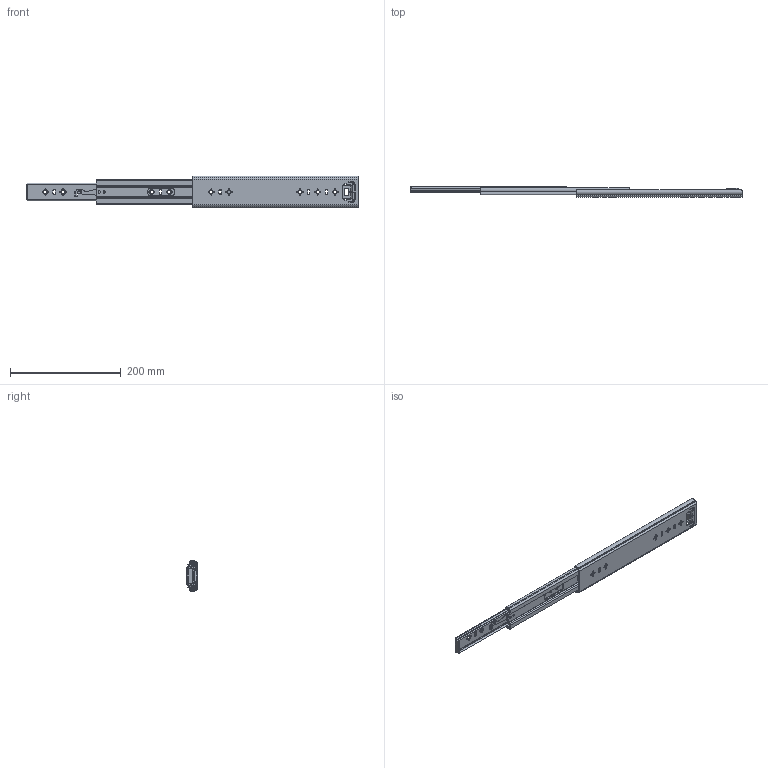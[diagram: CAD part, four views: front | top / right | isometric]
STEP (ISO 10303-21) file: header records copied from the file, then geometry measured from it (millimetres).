
FILE_DESCRIPTION((''),'2;1');
FILE_NAME('1057-02-12_ASM','2023-12-19T',('jishu015'),(''),'PRO/ENGINEER BY PARAMETRIC TECHNOLOGY CORPORATION, 2010280','PRO/ENGINEER BY PARAMETRIC TECHNOLOGY CORPORATION, 2010280','');
FILE_SCHEMA(('CONFIG_CONTROL_DESIGN'));
Length unit declared in the file: millimetre
Products named in the file (14): KP-57-01WEIKE-18______; 1057WEIJIAO______; 1057DAZHUJIA-14GE______; 1057-5-6GANZHU______; 1057DAZHUJIA-14GE_______ASM; KP-57-01ZHONGGUI-18______; 57-ZHONGGUIDINWEIJIAN______; KP-57-01ZHONGGUI-18_______ASM; 1057XIAOZHUJIA______; 1057XIAOZHUJIA-14GE_______ASM; KP-57-01NEIGUI-18______; 45TIEBACHA______; KP-57-01NEIGUI-18_______ASM; 1057-02-12_ASM
Assembly tree (48 placements, depth 3):
  1057-02-12_ASM
    KP-57-01WEIKE-18______
    1057WEIJIAO______
    1057DAZHUJIA-14GE_______ASM
      1057DAZHUJIA-14GE______
      1057-5-6GANZHU______  x12
    KP-57-01ZHONGGUI-18_______ASM
      KP-57-01ZHONGGUI-18______
      57-ZHONGGUIDINWEIJIAN______
    1057XIAOZHUJIA-14GE_______ASM
      1057XIAOZHUJIA______
      1057-5-6GANZHU______  x24
    KP-57-01NEIGUI-18_______ASM
      KP-57-01NEIGUI-18______
      45TIEBACHA______
Bounding box: 600 x 19 x 57.67 mm (x, y, z)
Volume: 127407.8 mm3; surface area: 145017.5 mm2
Topology: 44 solids, 46 shells, 1404 faces, 3911 edges, 2446 vertices
Faces by surface type: plane 676, cylinder 558, sphere 80, cone 54, bspline 30, torus 6
Entity records: 45203 total; most frequent: CARTESIAN_POINT 9644, DIRECTION 7499, ORIENTED_EDGE 7374, EDGE_CURVE 3689, AXIS2_PLACEMENT_3D 2572, VERTEX_POINT 2376, VECTOR 2355, LINE 2355
